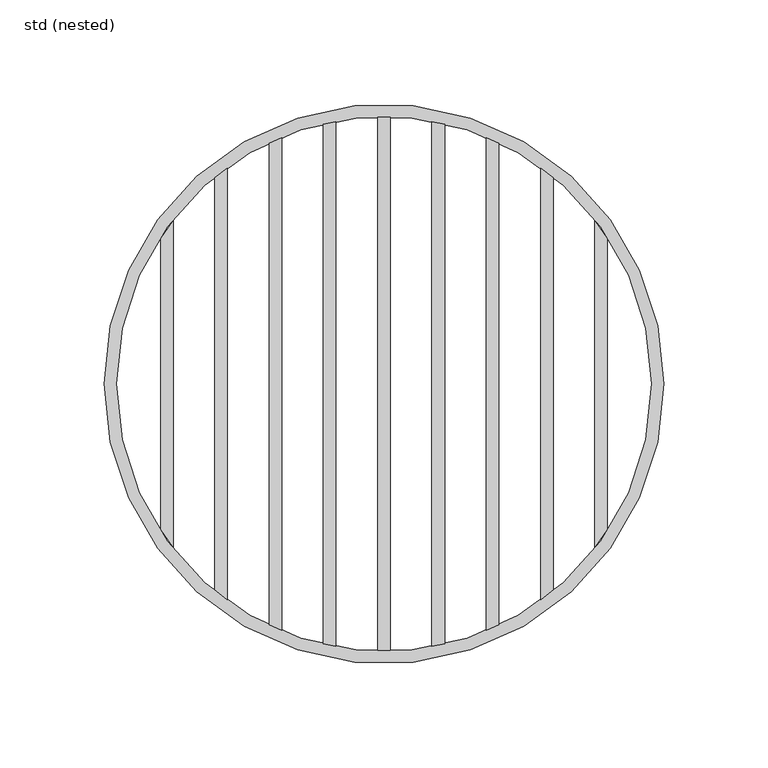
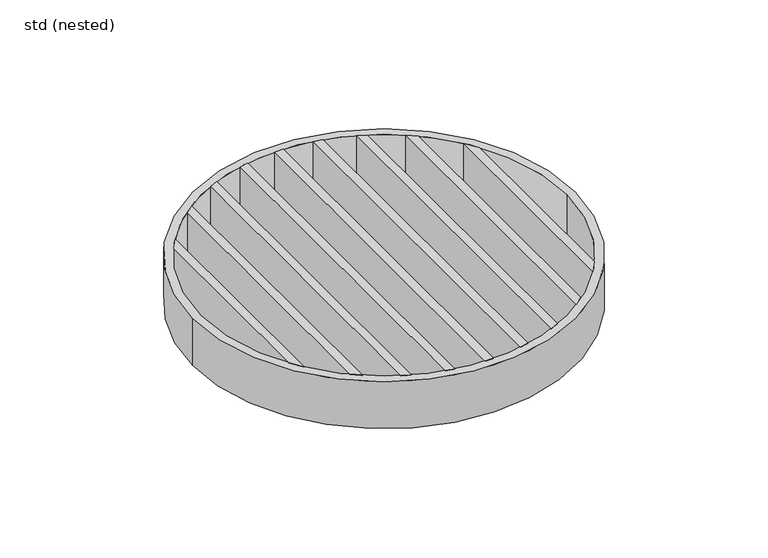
"""IFC4 building model written with IfcOpenShell, lengths in millimetres: sanitary terminal geometry, ZZZ_do not use_PF_ST_UN_round grating for hygienic gully_ACO : std (nested)."""

import ifcopenshell
import ifcopenshell.guid

model = None  # the IFC model being written
_history = None  # IfcOwnerHistory: only IFC2X3 demands one
_inside = {}  # id of a spatial element -> (the spatial element, [elements in it])
_under = {}  # id of a project, library or spatial element -> (it, [spatial elements below it])
_declared = {}  # id of a project -> (the project, [libraries it declares])
_typed = {}  # id of a type object -> (the type object, [elements of that type])
_made_of = {}  # id of a material, layer set ... -> (it, [elements and type objects made of it])


def new_model(schema):
    """Start an empty IFC model of exactly this schema.

    Asked for "IFC4X3", IfcOpenShell would pick the latest addendum, in which some entities
    have other attributes; the version numbers below select the first issue.
    IFC2X3 requires an IfcOwnerHistory on every rooted entity: one is made here for all.
    """
    global model, _history
    if schema == "IFC4X3":
        model = ifcopenshell.file(schema_version=(4, 3, 0, 0))
    else:
        model = ifcopenshell.file(schema=schema)
    _inside.clear()
    _under.clear()
    _declared.clear()
    _typed.clear()
    _made_of.clear()
    _history = None
    if model.schema == "IFC2X3":
        org = make("IfcOrganization", Name="unknown")
        user = make(
            "IfcPersonAndOrganization",
            ThePerson=make("IfcPerson", FamilyName="unknown"),
            TheOrganization=org,
        )
        app = make(
            "IfcApplication",
            ApplicationDeveloper=org,
            Version="unknown",
            ApplicationFullName="unknown",
            ApplicationIdentifier="unknown",
        )
        _history = make(
            "IfcOwnerHistory",
            OwningUser=user,
            OwningApplication=app,
            ChangeAction="ADDED",
            CreationDate=0,
        )
    return model


def make(cls, **values):
    """One entity of the class cls with the attributes given. An attribute that is None is left unset."""
    return model.create_entity(
        cls, **{name: value for name, value in values.items() if value is not None}
    )


def rooted(cls, **values):
    """An entity with a GlobalId (a new one), such as an element, a storey or a relation."""
    return make(cls, GlobalId=ifcopenshell.guid.new(), OwnerHistory=_history, **values)


def si_unit(unit_type, name, prefix=None):
    """IfcSIUnit, for example si_unit("LENGTHUNIT", "METRE", prefix="MILLI")."""
    return make("IfcSIUnit", UnitType=unit_type, Prefix=prefix, Name=name)


def assignment(units):
    """IfcUnitAssignment: the units of a project."""
    return None if units is None else make("IfcUnitAssignment", Units=units)


def point(xyz):
    """IfcCartesianPoint."""
    return None if xyz is None else make("IfcCartesianPoint", Coordinates=xyz)


def direction(xyz):
    """IfcDirection."""
    return None if xyz is None else make("IfcDirection", DirectionRatios=xyz)


def frame(location, z_axis=None, x_axis=None):
    """IfcAxis2Placement3D, a coordinate frame: its origin and axes. An axis left out is left unset."""
    return make(
        "IfcAxis2Placement3D",
        Location=point(location),
        Axis=direction(z_axis),
        RefDirection=direction(x_axis),
    )


def frame_2d(location, x_axis=None):
    """IfcAxis2Placement2D, a coordinate frame in the plane: its origin and x axis."""
    return make(
        "IfcAxis2Placement2D", Location=point(location), RefDirection=direction(x_axis)
    )


def origin():
    """The frame at (0, 0, 0) with its axes left unset."""
    return frame((0.0, 0.0, 0.0))


def origin_2d():
    """The frame at (0, 0) in the plane with its x axis left unset."""
    return frame_2d((0.0, 0.0))


def place(relative_to, where):
    """IfcLocalPlacement: puts the frame where relative to a parent placement (None: the world)."""
    return make(
        "IfcLocalPlacement", PlacementRelTo=relative_to, RelativePlacement=where
    )


def context(
    kind, dimensions, precision=None, world=None, true_north=None, identifier=None
):
    """IfcGeometricRepresentationContext, for example the 3D "Model" context."""
    return make(
        "IfcGeometricRepresentationContext",
        ContextIdentifier=identifier,
        ContextType=kind,
        CoordinateSpaceDimension=dimensions,
        Precision=precision,
        WorldCoordinateSystem=world,
        TrueNorth=true_north,
    )


def project(units=None, contexts=None):
    """IfcProject with its units and contexts."""
    return rooted(
        "IfcProject",
        Name="project",
        RepresentationContexts=contexts,
        UnitsInContext=assignment(units),
    )


def spatial(cls, under=None, at=None, **own):
    """A site, building, storey or space (cls), placed at a placement, below another one or the project."""
    s = rooted(cls, ObjectPlacement=at, **own)
    if under is not None:
        _under.setdefault(under.id(), (under, []))[1].append(s)
    return s


def polyline(points):
    """IfcPolyline through the points."""
    return make("IfcPolyline", Points=[point(p) for p in points])


def circle_curve(where, radius):
    """IfcCircle in the frame where."""
    return make("IfcCircle", Position=where, Radius=radius)


def trimmed(basis, trim1, trim2, sense, master):
    """IfcTrimmedCurve: the piece of a basis curve between two trims."""
    return make(
        "IfcTrimmedCurve",
        BasisCurve=basis,
        Trim1=trim1,
        Trim2=trim2,
        SenseAgreement=sense,
        MasterRepresentation=master,
    )


def segment(curve, same_sense, transition):
    """IfcCompositeCurveSegment."""
    return make(
        "IfcCompositeCurveSegment",
        Transition=transition,
        SameSense=same_sense,
        ParentCurve=curve,
    )


def composite_curve(segments, self_intersect=None):
    """IfcCompositeCurve: segments joined end to end."""
    return make("IfcCompositeCurve", Segments=segments, SelfIntersect=self_intersect)


def outline(outer, holes=None, kind="AREA"):
    """IfcArbitraryClosedProfileDef: a profile drawn as a closed curve; with holes, ...WithVoids."""
    if holes is None:
        return make("IfcArbitraryClosedProfileDef", ProfileType=kind, OuterCurve=outer)
    return make(
        "IfcArbitraryProfileDefWithVoids",
        ProfileType=kind,
        OuterCurve=outer,
        InnerCurves=holes,
    )


def extrude(swept, where, along, depth):
    """IfcExtrudedAreaSolid: the profile swept, set in the frame where, extruded along a direction by depth."""
    return make(
        "IfcExtrudedAreaSolid",
        SweptArea=swept,
        Position=where,
        ExtrudedDirection=direction(along),
        Depth=depth,
    )


def shape(context_of_items, identifier, shape_type, items):
    """IfcShapeRepresentation: the items that make up one representation, for example the "Body"."""
    return make(
        "IfcShapeRepresentation",
        ContextOfItems=context_of_items,
        RepresentationIdentifier=identifier,
        RepresentationType=shape_type,
        Items=items,
    )


def source(mapping_origin, context_of_items, identifier, shape_type, items):
    """IfcRepresentationMap: a shape defined once, which mapped items show again and again."""
    return make(
        "IfcRepresentationMap",
        MappingOrigin=mapping_origin,
        MappedRepresentation=shape(context_of_items, identifier, shape_type, items),
    )


def transform(
    local_origin,
    x_axis=None,
    y_axis=None,
    z_axis=None,
    scale=None,
    scale2=None,
    scale3=None,
    uniform=True,
):
    """IfcCartesianTransformationOperator3D, or its non-uniform kind. x_axis, y_axis, z_axis: its Axis1, 2, 3."""
    if uniform:
        return make(
            "IfcCartesianTransformationOperator3D",
            Axis1=direction(x_axis),
            Axis2=direction(y_axis),
            LocalOrigin=point(local_origin),
            Scale=scale,
            Axis3=direction(z_axis),
        )
    return make(
        "IfcCartesianTransformationOperator3DnonUniform",
        Axis1=direction(x_axis),
        Axis2=direction(y_axis),
        LocalOrigin=point(local_origin),
        Scale=scale,
        Axis3=direction(z_axis),
        Scale2=scale2,
        Scale3=scale3,
    )


def mapped(mapping_source, mapping_target):
    """IfcMappedItem: shows the shape of a source again, moved by a transform."""
    return make(
        "IfcMappedItem", MappingSource=mapping_source, MappingTarget=mapping_target
    )


def made_of(thing, what):
    """Note that an element or type object is made of a material, layer set ...; save() writes the relation."""
    if what is not None:
        _made_of.setdefault(what.id(), (what, []))[1].append(thing)
    return thing


def element(
    cls,
    number,
    at=None,
    inside=None,
    cuts=None,
    type_object=None,
    material=None,
    context=None,
    identifier="Body",
    shape_type=None,
    held_by="IfcProductDefinitionShape",
    body=None,
    shapes=None,
    **own,
):
    """One element of the class cls, such as IfcWall. Its Tag is "e" and its number.

    at: its placement. inside: the storey or other place that contains it. cuts: it is an
    opening in that element (IfcRelVoidsElement). A single representation is given by context,
    identifier, shape_type and body (its items); several are given by shapes. held_by: the class
    of the entity that holds the representations. save() writes the other relations.
    """
    e = rooted(cls, Tag="e%d" % number, ObjectPlacement=at, **own)
    if body is not None:
        shapes = [shape(context, identifier, shape_type, body)]
    if shapes is not None:
        e.Representation = make(held_by, Representations=shapes)
    if inside is not None:
        _inside.setdefault(inside.id(), (inside, []))[1].append(e)
    if cuts is not None:
        rooted(
            "IfcRelVoidsElement", RelatingBuildingElement=cuts, RelatedOpeningElement=e
        )
    if type_object is not None:
        _typed.setdefault(type_object.id(), (type_object, []))[1].append(e)
    return made_of(e, material)


def aggregate(whole, parts):
    """IfcRelAggregates: a whole, such as a stair, and the parts it consists of."""
    return rooted("IfcRelAggregates", RelatingObject=whole, RelatedObjects=parts)


def save(model, path):
    """Write the relations noted so far, then the file.

    IfcRelAggregates (storeys below a building ...), IfcRelContainedInSpatialStructure (elements
    in a storey), IfcRelDefinesByType, IfcRelAssociatesMaterial and IfcRelDeclares: one each for
    every whole, place, type object, material and project.
    """
    for whole, parts in _under.values():
        aggregate(whole, parts)
    for where, things in _inside.values():
        rooted(
            "IfcRelContainedInSpatialStructure",
            RelatedElements=things,
            RelatingStructure=where,
        )
    for kind, things in _typed.values():
        rooted("IfcRelDefinesByType", RelatedObjects=things, RelatingType=kind)
    for what, things in _made_of.values():
        rooted("IfcRelAssociatesMaterial", RelatedObjects=things, RelatingMaterial=what)
    for by, libraries in _declared.values():
        rooted("IfcRelDeclares", RelatingContext=by, RelatedDefinitions=libraries)
    model.write(path)


def std_nested_652eae4b(model_context):
    return source(origin(), model_context, "Body", "SweptSolid", [
        extrude(outline(polyline([(-101.0, 78.2), (-101.0, -78.2), (-107.0, -69.631112), (-107.0, 69.631112), (-101.0, 78.2)])), frame((0.0, 0.0, -35.0), z_axis=(0.0, 0.0, 1.0), x_axis=(1.0, 0.0, 0.0)), (0.0, 0.0, 1.0), 35.0),
        extrude(outline(polyline([(101.0, 78.2), (107.0, 69.631112), (107.0, -69.631112), (101.0, -78.2), (101.0, 78.2)])), frame((0.0, 0.0, -35.0), z_axis=(0.0, 0.0, 1.0), x_axis=(1.0, 0.0, 0.0)), (0.0, 0.0, 1.0), 35.0),
        extrude(outline(polyline([(-75.0, 103.4), (-75.0, -103.4), (-81.0, -98.7122862), (-81.0, 98.7122862), (-75.0, 103.4)])), frame((0.0, 0.0, -35.0), z_axis=(0.0, 0.0, 1.0), x_axis=(1.0, 0.0, 0.0)), (0.0, 0.0, 1.0), 35.0),
        extrude(outline(polyline([(75.0, 103.4), (81.0, 98.7122862), (81.0, -98.7122862), (75.0, -103.4), (75.0, 103.4)])), frame((0.0, 0.0, -35.0), z_axis=(0.0, 0.0, 1.0), x_axis=(1.0, 0.0, 0.0)), (0.0, 0.0, 1.0), 35.0),
        extrude(outline(polyline([(-55.0, 115.3286279), (-49.0, 118.0), (-49.0, -118.0), (-55.0, -115.3286279), (-55.0, 115.3286279)])), frame((0.0, 0.0, -35.0), z_axis=(0.0, 0.0, 1.0), x_axis=(1.0, 0.0, 0.0)), (0.0, 0.0, 1.0), 35.0),
        extrude(outline(polyline([(55.0, 115.3286279), (55.0, -115.3286279), (49.0, -118.0), (49.0, 118.0), (55.0, 115.3286279)])), frame((0.0, 0.0, -35.0), z_axis=(0.0, 0.0, 1.0), x_axis=(1.0, 0.0, 0.0)), (0.0, 0.0, 1.0), 35.0),
        extrude(outline(polyline([(-23.0, 125.65), (-23.0, -125.65), (-29.0, -124.3746606), (-29.0, 124.3746606), (-23.0, 125.65)])), frame((0.0, 0.0, -35.0), z_axis=(0.0, 0.0, 1.0), x_axis=(1.0, 0.0, 0.0)), (0.0, 0.0, 1.0), 35.0),
        extrude(outline(polyline([(23.0, 125.65), (29.0, 124.3746606), (29.0, -124.3746606), (23.0, -125.65), (23.0, 125.65)])), frame((0.0, 0.0, -35.0), z_axis=(0.0, 0.0, 1.0), x_axis=(1.0, 0.0, 0.0)), (0.0, 0.0, 1.0), 35.0),
        extrude(outline(polyline([(3.0, 127.7), (3.0, -127.7), (-3.0, -127.7), (-3.0, 127.7), (3.0, 127.7)])), frame((0.0, 0.0, -35.0), z_axis=(0.0, 0.0, 1.0), x_axis=(1.0, 0.0, 0.0)), (0.0, 0.0, 1.0), 35.0),
        extrude(outline(composite_curve([segment(trimmed(circle_curve(origin_2d(), 134.0), [point((-134.0, 0.0))], [point((134.0, 0.0))], False, "CARTESIAN"), True, "CONTINUOUS"), segment(trimmed(circle_curve(origin_2d(), 134.0), [point((134.0, 0.0))], [point((-134.0, 0.0))], False, "CARTESIAN"), True, "CONTINUOUS")], self_intersect=False), holes=[composite_curve([segment(trimmed(circle_curve(origin_2d(), 128.0), [point((-128.0, 0.0))], [point((128.0, 0.0))], True, "CARTESIAN"), True, "CONTINUOUS"), segment(trimmed(circle_curve(origin_2d(), 128.0), [point((128.0, 0.0))], [point((-128.0, 0.0))], True, "CARTESIAN"), True, "CONTINUOUS")], self_intersect=False)]), frame((0.0, 0.0, -35.0), z_axis=(0.0, 0.0, 1.0), x_axis=(1.0, 0.0, 0.0)), (0.0, 0.0, 1.0), 35.0),
    ])


if __name__ == "__main__":
    model = new_model("IFC4")
    model_context = context("Model", 3, world=origin())
    ifc_project = project(units=[si_unit("LENGTHUNIT", "METRE", prefix="MILLI")], contexts=[model_context])
    site = spatial("IfcSite", under=ifc_project)
    building = spatial("IfcBuilding", under=site)
    placement = place(None, origin())
    std_nested_shape = std_nested_652eae4b(model_context)
    element("IfcSanitaryTerminal", 1, ObjectType="ZZZ_do not use_PF_ST_UN_round grating for hygienic gully_ACO : std (nested)", at=placement, inside=building, context=model_context, shape_type="MappedRepresentation", body=[
        mapped(std_nested_shape, transform((0.0, 0.0, 0.0), x_axis=(1.0, 0.0, 0.0), y_axis=(0.0, 1.0, 0.0), z_axis=(0.0, 0.0, 1.0))),
    ])
    save(model, "model.ifc")
